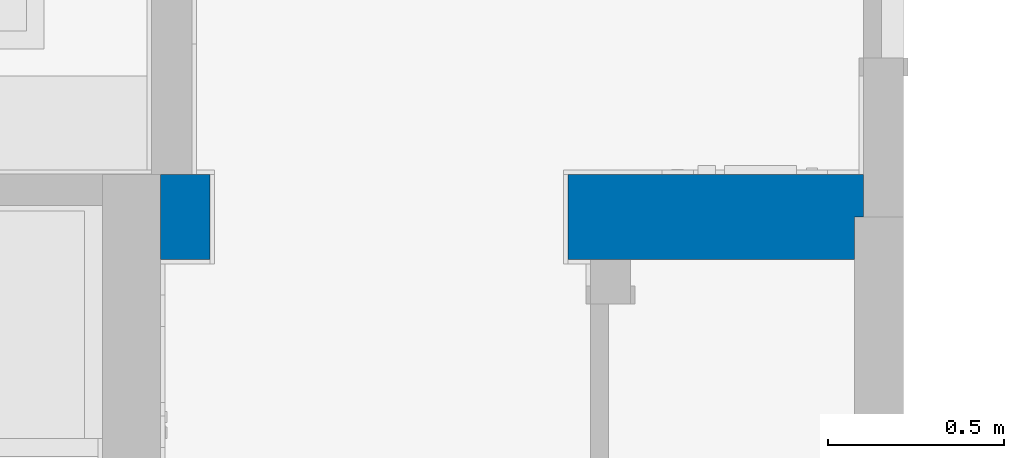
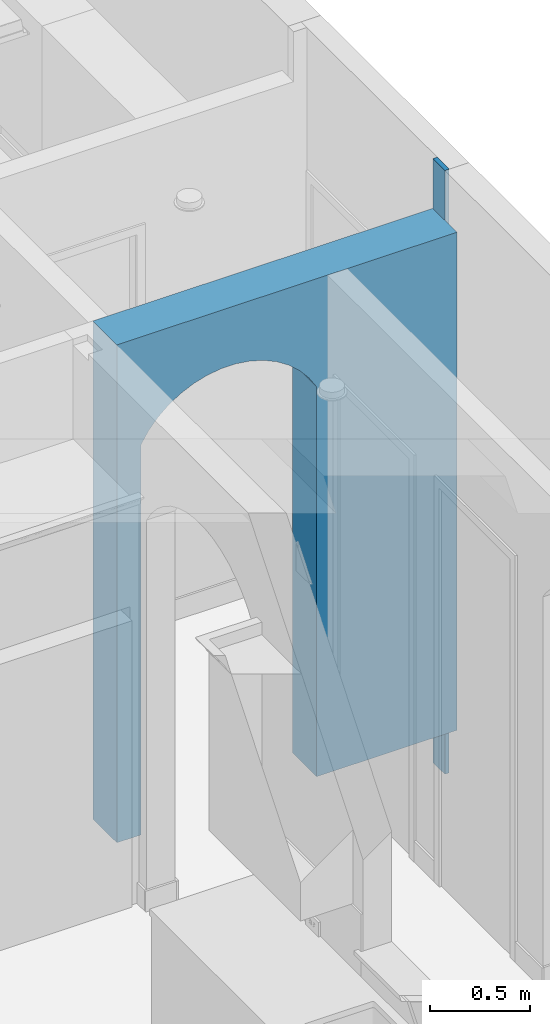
# One storey, part 32 of 81: 1 wall.
"""IFC2X3 building model written with IfcOpenShell, lengths in feet."""

from ifc_helpers import new_model, entity, si_unit, converted_unit, derived_unit, direction, frame, origin, place, context, subcontext, project, spatial, faceted_brep, material, layer, layer_set, type_object, element, save


model = new_model("IFC2X3")

# Units and contexts
model_context = context("Model", 3, precision=0.0001, world=origin(), true_north=direction((6.12303176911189e-17, 1.0)))
body_context = subcontext(model_context, "Body", "Model", "MODEL_VIEW")
ifc_project = project(units=[converted_unit("LENGTHUNIT", "FOOT", entity("IfcRatioMeasure", 0.3048), si_unit("LENGTHUNIT", "METRE"), dimensions=[1, 0, 0, 0, 0, 0, 0]), converted_unit("AREAUNIT", "SQUARE FOOT", entity("IfcRatioMeasure", 0.09290304), si_unit("AREAUNIT", "SQUARE_METRE"), dimensions=[2, 0, 0, 0, 0, 0, 0]), converted_unit("VOLUMEUNIT", "CUBIC FOOT", entity("IfcRatioMeasure", 0.028316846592), si_unit("VOLUMEUNIT", "CUBIC_METRE"), dimensions=[3, 0, 0, 0, 0, 0, 0]), converted_unit("PLANEANGLEUNIT", "DEGREE", entity("IfcRatioMeasure", 0.0174532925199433), si_unit("PLANEANGLEUNIT", "RADIAN"), dimensions=[0, 0, 0, 0, 0, 0, 0]), si_unit("MASSUNIT", "GRAM", prefix="KILO"), derived_unit("MASSDENSITYUNIT", [(si_unit("MASSUNIT", "GRAM", prefix="KILO"), 1), (si_unit("LENGTHUNIT", "METRE"), -3)]), derived_unit("MOMENTOFINERTIAUNIT", [(si_unit("LENGTHUNIT", "METRE"), 4)]), si_unit("TIMEUNIT", "SECOND"), si_unit("FREQUENCYUNIT", "HERTZ"), si_unit("THERMODYNAMICTEMPERATUREUNIT", "DEGREE_CELSIUS"), derived_unit("THERMALTRANSMITTANCEUNIT", [(si_unit("MASSUNIT", "GRAM", prefix="KILO"), 1), (si_unit("THERMODYNAMICTEMPERATUREUNIT", "KELVIN"), -1), (si_unit("TIMEUNIT", "SECOND"), -3)]), derived_unit("VOLUMETRICFLOWRATEUNIT", [(si_unit("LENGTHUNIT", "METRE"), 3), (si_unit("TIMEUNIT", "SECOND"), -1)]), si_unit("ELECTRICCURRENTUNIT", "AMPERE"), si_unit("ELECTRICVOLTAGEUNIT", "VOLT"), si_unit("POWERUNIT", "WATT"), si_unit("FORCEUNIT", "NEWTON"), si_unit("ILLUMINANCEUNIT", "LUX"), si_unit("LUMINOUSFLUXUNIT", "LUMEN"), si_unit("LUMINOUSINTENSITYUNIT", "CANDELA"), derived_unit("USERDEFINED", [(si_unit("MASSUNIT", "GRAM", prefix="KILO"), -1), (si_unit("LENGTHUNIT", "METRE"), -2), (si_unit("TIMEUNIT", "SECOND"), 3), (si_unit("LUMINOUSFLUXUNIT", "LUMEN"), 1)]), derived_unit("LINEARVELOCITYUNIT", [(si_unit("LENGTHUNIT", "METRE"), 1), (si_unit("TIMEUNIT", "SECOND"), -1)]), si_unit("PRESSUREUNIT", "PASCAL"), derived_unit("USERDEFINED", [(si_unit("LENGTHUNIT", "METRE"), -2), (si_unit("MASSUNIT", "GRAM", prefix="KILO"), 1), (si_unit("TIMEUNIT", "SECOND"), -2)]), derived_unit("LINEARFORCEUNIT", [(si_unit("MASSUNIT", "GRAM", prefix="KILO"), 1), (si_unit("LENGTHUNIT", "METRE"), 1), (si_unit("TIMEUNIT", "SECOND"), -2), (si_unit("LENGTHUNIT", "METRE"), -1)]), derived_unit("PLANARFORCEUNIT", [(si_unit("MASSUNIT", "GRAM", prefix="KILO"), 1), (si_unit("LENGTHUNIT", "METRE"), 1), (si_unit("TIMEUNIT", "SECOND"), -2), (si_unit("LENGTHUNIT", "METRE"), -2)])], contexts=[model_context])

# Site, building, storey
site_placement = place(None, origin())
site = spatial("IfcSite", under=ifc_project, at=site_placement, Name="Default", CompositionType="ELEMENT")
building_placement = place(site_placement, origin())
building = spatial("IfcBuilding", under=site, at=building_placement, CompositionType="ELEMENT")
storey_placement = place(building_placement, origin())
storey = spatial("IfcBuildingStorey", under=building, at=storey_placement, Name="First floor", CompositionType="ELEMENT", Elevation=0.0)

# Wall
ifc_material = material(Name="Default New Material")
ifc_layer = layer(ifc_material, 0.791666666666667)
ifc_layer_set = layer_set([ifc_layer], Name="Basic Wall:Wall_9.5\"")
wall_type = type_object("IfcWallType", Name="Basic Wall:Wall_9.5\"", PredefinedType="STANDARD", material=ifc_layer_set)
wall_placement = place(storey_placement, frame((20.0, 33.0204881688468, 9.54166666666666), z_axis=(0.0, 0.0, 1.0), x_axis=(-1.0, 0.0, 0.0)))
element("IfcWall", 1, at=wall_placement, inside=storey, type_object=wall_type, material=ifc_material, Name="Basic Wall:Wall_9.5\"", ObjectType="Basic Wall:Wall_9.5\"", context=body_context, shape_type="Brep", body=[
    faceted_brep([(2.16666666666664, 0.395833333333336, 1.125), (2.54166666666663, 0.395833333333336, 1.125), (2.74999999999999, 0.395833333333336, 1.125), (2.74999999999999, -0.395833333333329, 1.125), (0.0833333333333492, -0.395833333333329, 1.125), (0.0833333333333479, 0.0, 1.125), (0.0833333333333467, 0.395833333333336, 1.125), (6.08333333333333, 0.395833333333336, 1.125), (6.54166666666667, 0.395833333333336, 1.125), (6.54166666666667, -0.395833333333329, 1.125), (6.25000000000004, -0.395833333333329, 1.125), (6.08333333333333, -0.395833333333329, 1.125), (0.0, -0.395833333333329, 0.0), (0.0833333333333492, -0.395833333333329, 0.0), (2.75, -0.395833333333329, 8.95833333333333), (2.89493342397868, -0.395833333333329, 9.18847490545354), (3.07141589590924, -0.395833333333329, 9.39541638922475), (3.27578852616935, -0.395833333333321, 9.57486740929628), (3.50381419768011, -0.395833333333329, 9.72310753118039), (3.75076541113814, -0.395833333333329, 9.83706339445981), (4.01152229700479, -0.395833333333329, 9.91437243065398), (4.28067876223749, -0.395833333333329, 9.95343184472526), (4.55265457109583, -0.395833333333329, 9.95343184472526), (4.82181103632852, -0.395833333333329, 9.91437243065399), (5.08256792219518, -0.395833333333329, 9.83706339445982), (5.3295191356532, -0.395833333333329, 9.7231075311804), (5.55754480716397, -0.395833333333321, 9.57486740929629), (5.76191743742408, -0.395833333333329, 9.39541638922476), (5.93839990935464, -0.395833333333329, 9.18847490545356), (6.08333333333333, -0.395833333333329, 8.95833333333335), (6.54166666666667, -0.395833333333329, 11.125), (6.25000000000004, -0.395833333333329, 11.125), (0.0833333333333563, -0.395833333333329, 11.125), (0.0833333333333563, -0.395833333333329, 12.125), (0.0, -0.395833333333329, 12.125), (0.0, -0.395833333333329, 11.125), (0.0, -0.395833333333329, 1.125), (6.08333333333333, 0.395833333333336, 8.95833333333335), (5.93839990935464, 0.395833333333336, 9.18847490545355), (5.76191743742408, 0.395833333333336, 9.39541638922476), (5.55754480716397, 0.395833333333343, 9.57486740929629), (5.3295191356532, 0.395833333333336, 9.7231075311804), (5.08256792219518, 0.395833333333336, 9.83706339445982), (4.82181103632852, 0.395833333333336, 9.91437243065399), (4.55265457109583, 0.395833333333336, 9.95343184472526), (4.28067876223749, 0.395833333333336, 9.95343184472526), (4.01152229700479, 0.395833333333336, 9.91437243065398), (3.75076541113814, 0.395833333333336, 9.83706339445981), (3.50381419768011, 0.395833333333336, 9.72310753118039), (3.27578852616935, 0.395833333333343, 9.57486740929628), (3.07141589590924, 0.395833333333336, 9.39541638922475), (2.89493342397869, 0.395833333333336, 9.18847490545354), (2.74999999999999, 0.395833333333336, 8.95833333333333), (0.0833333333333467, 0.395833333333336, 11.125), (2.16666666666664, 0.395833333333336, 11.125), (2.54166666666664, 0.395833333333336, 11.125), (6.54166666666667, 0.395833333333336, 11.125), (0.0, 0.0, 0.0), (0.0833333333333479, 0.0, 0.0), (0.0833333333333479, 0.0, 12.125), (0.0, 0.0, 12.125), (0.0833333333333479, 0.0, 11.125)], [[[0, 1, 2, 3, 4, 5, 6]], [[7, 8, 9, 10, 11]], [[12, 13, 4, 3, 14, 15, 16, 17, 18, 19, 20, 21, 22, 23, 24, 25, 26, 27, 28, 29, 11, 10, 9, 30, 31, 32, 33, 34, 35, 36]], [[8, 7, 37, 38, 39, 40, 41, 42, 43, 44, 45, 46, 47, 48, 49, 50, 51, 52, 2, 1, 0, 6, 53, 54, 55, 56]], [[13, 12, 57, 58]], [[34, 33, 59, 60]], [[60, 57, 12, 36, 35, 34]], [[59, 61, 5, 58, 57, 60]], [[53, 6, 5, 61]], [[15, 14, 52, 51]], [[16, 15, 51, 50]], [[17, 16, 50, 49]], [[46, 20, 19, 47]], [[19, 18, 48, 47]], [[21, 20, 46, 45]], [[49, 48, 18, 17]], [[45, 44, 22, 21]], [[24, 23, 43, 42]], [[23, 22, 44, 43]], [[25, 24, 42, 41]], [[38, 28, 27, 39]], [[27, 26, 40, 39]], [[26, 25, 41, 40]], [[29, 28, 38, 37]], [[29, 37, 7, 11]], [[14, 3, 2, 52]], [[56, 55, 54, 53, 61, 32, 31, 30]], [[61, 59, 33, 32]], [[4, 13, 58, 5]], [[9, 8, 56, 30]]]),
])

save(model, "model.ifc")
